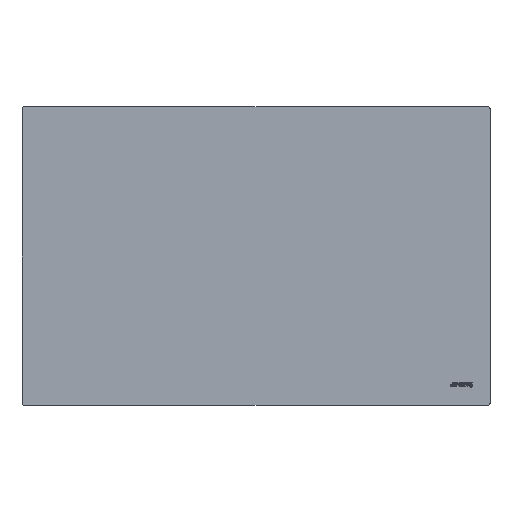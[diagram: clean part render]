
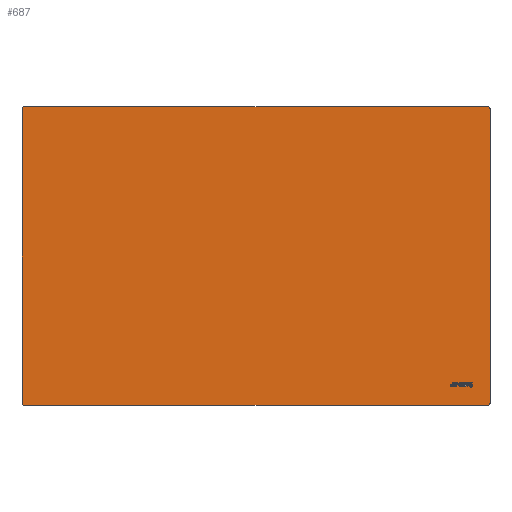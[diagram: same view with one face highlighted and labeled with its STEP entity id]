
A CAD part, top view. The second image highlights one B-rep face of the part: STEP entity #687.
In plain terms, the highlighted planar face has unit normal (0, 0, 1).
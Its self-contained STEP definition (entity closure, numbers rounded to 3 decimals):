
#190=LINE('',#2884,#330);
#194=LINE('',#2893,#334);
#200=LINE('',#2907,#340);
#204=LINE('',#2916,#344);
#330=VECTOR('',#2141,1.);
#334=VECTOR('',#2147,1.);
#340=VECTOR('',#2155,1.);
#344=VECTOR('',#2161,1.);
#514=PLANE('',#1773);
#592=FACE_OUTER_BOUND('',#846,.T.);
#687=ADVANCED_FACE('',(#592),#514,.T.);
#846=EDGE_LOOP('',(#1224,#1225,#1226,#1227,#1228,#1229,#1230,#1231));
#1224=ORIENTED_EDGE('',*,*,#1588,.T.);
#1225=ORIENTED_EDGE('',*,*,#1590,.T.);
#1226=ORIENTED_EDGE('',*,*,#1574,.T.);
#1227=ORIENTED_EDGE('',*,*,#1591,.T.);
#1228=ORIENTED_EDGE('',*,*,#1578,.T.);
#1229=ORIENTED_EDGE('',*,*,#1592,.T.);
#1230=ORIENTED_EDGE('',*,*,#1584,.T.);
#1231=ORIENTED_EDGE('',*,*,#1593,.T.);
#1380=VERTEX_POINT('',#2885);
#1381=VERTEX_POINT('',#2886);
#1384=VERTEX_POINT('',#2894);
#1385=VERTEX_POINT('',#2895);
#1390=VERTEX_POINT('',#2906);
#1391=VERTEX_POINT('',#2908);
#1394=VERTEX_POINT('',#2915);
#1395=VERTEX_POINT('',#2917);
#1574=EDGE_CURVE('',#1380,#1381,#190,.T.);
#1578=EDGE_CURVE('',#1384,#1385,#194,.T.);
#1584=EDGE_CURVE('',#1391,#1390,#200,.T.);
#1588=EDGE_CURVE('',#1395,#1394,#204,.T.);
#1590=EDGE_CURVE('',#1394,#1380,#1640,.T.);
#1591=EDGE_CURVE('',#1381,#1384,#1641,.T.);
#1592=EDGE_CURVE('',#1385,#1391,#1642,.T.);
#1593=EDGE_CURVE('',#1390,#1395,#1643,.T.);
#1640=CIRCLE('',#1769,3.);
#1641=CIRCLE('',#1770,3.);
#1642=CIRCLE('',#1771,3.);
#1643=CIRCLE('',#1772,3.);
#1769=AXIS2_PLACEMENT_3D('',#2920,#2165,#2166);
#1770=AXIS2_PLACEMENT_3D('',#2921,#2167,#2168);
#1771=AXIS2_PLACEMENT_3D('',#2922,#2169,#2170);
#1772=AXIS2_PLACEMENT_3D('',#2923,#2171,#2172);
#1773=AXIS2_PLACEMENT_3D('',#2924,#2173,#2174);
#2141=DIRECTION('',(0.,-1.,0.));
#2147=DIRECTION('',(1.,0.,0.));
#2155=DIRECTION('',(0.,1.,0.));
#2161=DIRECTION('',(-1.,0.,0.));
#2165=DIRECTION('',(0.,0.,1.));
#2166=DIRECTION('',(1.,0.,0.));
#2167=DIRECTION('',(0.,0.,1.));
#2168=DIRECTION('',(1.,0.,0.));
#2169=DIRECTION('',(0.,0.,1.));
#2170=DIRECTION('',(1.,0.,0.));
#2171=DIRECTION('',(0.,0.,1.));
#2172=DIRECTION('',(1.,0.,0.));
#2173=DIRECTION('',(0.,0.,1.));
#2174=DIRECTION('',(1.,0.,0.));
#2884=CARTESIAN_POINT('',(-400.,255.,39.));
#2885=CARTESIAN_POINT('',(-400.,252.,39.));
#2886=CARTESIAN_POINT('',(-400.,-252.,39.));
#2893=CARTESIAN_POINT('',(-400.,-255.,39.));
#2894=CARTESIAN_POINT('',(-397.,-255.,39.));
#2895=CARTESIAN_POINT('',(397.,-255.,39.));
#2906=CARTESIAN_POINT('',(400.,252.,39.));
#2907=CARTESIAN_POINT('',(400.,-255.,39.));
#2908=CARTESIAN_POINT('',(400.,-252.,39.));
#2915=CARTESIAN_POINT('',(-397.,255.,39.));
#2916=CARTESIAN_POINT('',(400.,255.,39.));
#2917=CARTESIAN_POINT('',(397.,255.,39.));
#2920=CARTESIAN_POINT('',(-397.,252.,39.));
#2921=CARTESIAN_POINT('',(-397.,-252.,39.));
#2922=CARTESIAN_POINT('',(397.,-252.,39.));
#2923=CARTESIAN_POINT('',(397.,252.,39.));
#2924=CARTESIAN_POINT('',(0.,-255.,39.));
